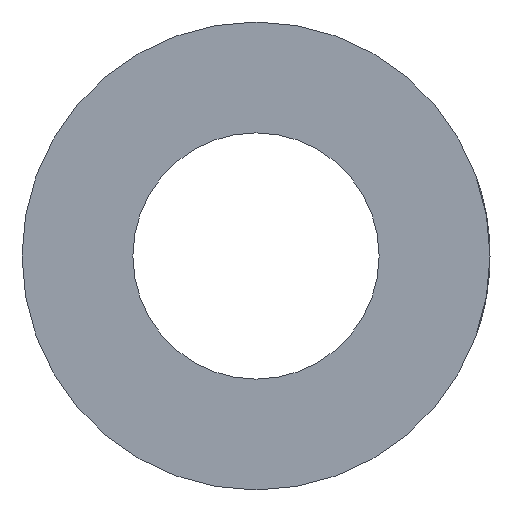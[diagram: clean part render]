
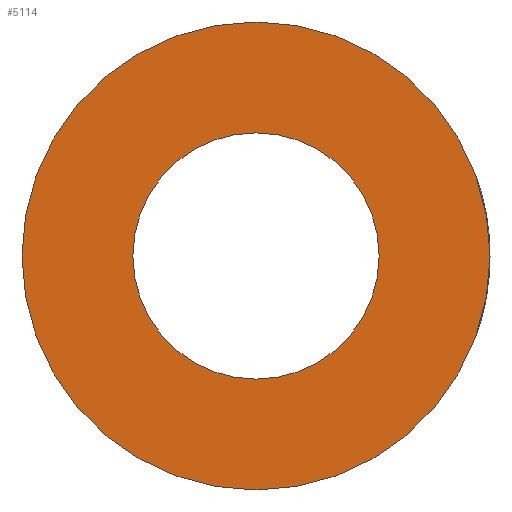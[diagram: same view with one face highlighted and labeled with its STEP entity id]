
A CAD part, left-side view. The second image highlights one B-rep face of the part: STEP entity #5114.
In plain terms, the highlighted planar face has unit normal (-1, 0, 0).
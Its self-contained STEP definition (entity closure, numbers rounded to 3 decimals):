
#112=PLANE('',#5514);
#1570=ORIENTED_EDGE('',*,*,#3112,.T.);
#1571=ORIENTED_EDGE('',*,*,#3111,.F.);
#3111=EDGE_CURVE('',#3882,#3882,#4233,.T.);
#3112=EDGE_CURVE('',#3883,#3883,#4234,.T.);
#3882=VERTEX_POINT('',#7995);
#3883=VERTEX_POINT('',#7998);
#4233=CIRCLE('',#5513,9.5);
#4234=CIRCLE('',#5515,5.);
#4356=EDGE_LOOP('',(#1570));
#4357=EDGE_LOOP('',(#1571));
#4729=FACE_BOUND('',#4356,.T.);
#4730=FACE_BOUND('',#4357,.T.);
#5114=ADVANCED_FACE('',(#4729,#4730),#112,.F.);
#5513=AXIS2_PLACEMENT_3D('',#7994,#6054,#6055);
#5514=AXIS2_PLACEMENT_3D('',#7996,#6056,#6057);
#5515=AXIS2_PLACEMENT_3D('',#7997,#6058,#6059);
#6054=DIRECTION('',(1.,0.,0.));
#6055=DIRECTION('',(0.,0.,-1.));
#6056=DIRECTION('',(1.,0.,0.));
#6057=DIRECTION('',(0.,0.,-1.));
#6058=DIRECTION('',(1.,0.,0.));
#6059=DIRECTION('',(0.,0.,-1.));
#7994=CARTESIAN_POINT('',(-14.5,0.,0.));
#7995=CARTESIAN_POINT('',(-14.5,0.,-9.5));
#7996=CARTESIAN_POINT('',(-14.5,0.,0.));
#7997=CARTESIAN_POINT('',(-14.5,0.,0.));
#7998=CARTESIAN_POINT('',(-14.5,0.,-5.));
